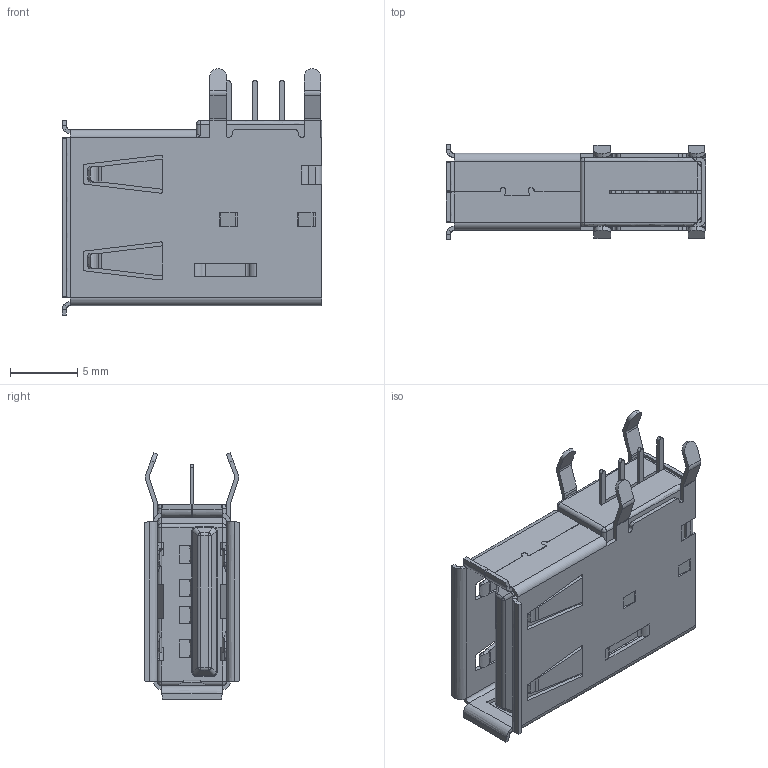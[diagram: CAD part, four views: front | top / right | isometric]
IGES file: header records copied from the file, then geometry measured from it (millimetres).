
Global section: file name: Filename.iges; native system: Open CASCADE 7.3; preprocessor: Open CASCADE IGES processor 7.3; date: 20201209.121357; units: millimetre
Bounding box: 19.3 x 7.1 x 18.3 mm (x, y, z)
Surface area: 2754.5 mm2 (no closed solid volume)
Topology: 0 solids, 0 shells, 891 faces, 4702 edges, 4694 vertices
Faces by surface type: plane 484, revolution 307, bspline 100
